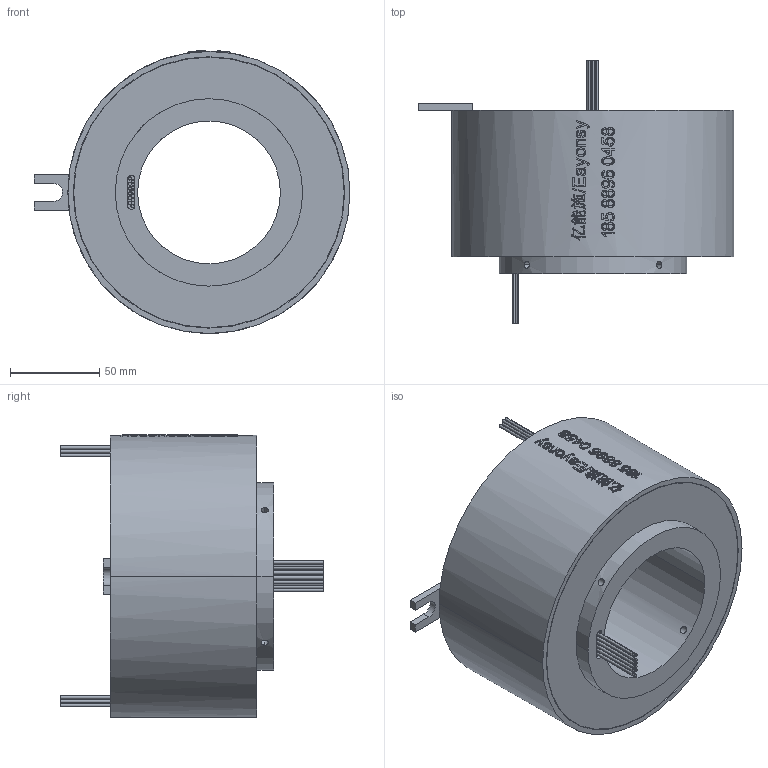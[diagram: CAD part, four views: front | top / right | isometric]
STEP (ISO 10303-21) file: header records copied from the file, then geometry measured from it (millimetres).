
FILE_DESCRIPTION(/* description */ (''),/* implementation_level */ '2;1');
FILE_NAME(/* name */ 'HD80158-1210.stp',/* time_stamp */ '2025-01-19T10:27:08+08:00',/* author */ (''),/* organization */ (''),/* preprocessor_version */ 'ST-DEVELOPER v16.7',/* originating_system */ 'SIEMENS PLM Software NX 12.0',/* authorisation */ '');
FILE_SCHEMA (('AUTOMOTIVE_DESIGN { 1 0 10303 214 3 1 1 1 }'));
Length unit declared in the file: millimetre
Products named in the file (1): HX05089CE4B9baid
Bounding box: 177 x 147.5 x 158.47 mm (x, y, z)
Volume: 1232241.5 mm3; surface area: 106151.4 mm2
Topology: 1 solids, 1 shells, 463 faces, 1146 edges, 763 vertices
Faces by surface type: plane 236, cylinder 101, extrusion 93, bspline 29, torus 4
Entity records: 33321 total; most frequent: CARTESIAN_POINT 23271, ORIENTED_EDGE 2268, DIRECTION 1603, EDGE_CURVE 1134, VERTEX_POINT 763, B_SPLINE_CURVE_WITH_KNOTS 699, AXIS2_PLACEMENT_3D 640, EDGE_LOOP 565
